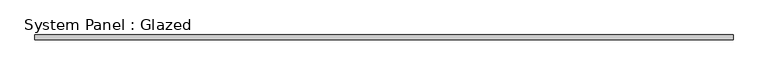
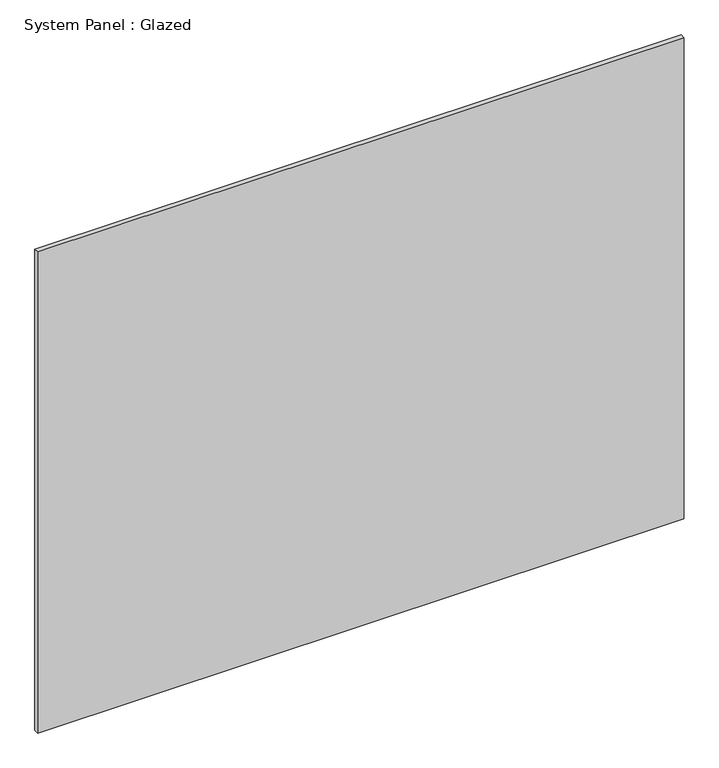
"""IFC4 building model written with IfcOpenShell, lengths in millimetres: plate geometry, System Panel : Glazed."""

from ifc_helpers import new_model, si_unit, origin, origin_with_axes, place, context, project, spatial, polyline, outline, extrude, source, transform, mapped, element, save


def system_panel_glazed_1260faee(model_context):
    return source(origin(), model_context, "Body", "SweptSolid", [
        extrude(outline(polyline([(1747.5, -49.5), (-1747.5, -49.5), (-1747.5, -24.5), (1747.5, -24.5), (1747.5, -49.5)])), origin_with_axes(), (0.0, 0.0, 1.0), 2750.0),
    ])


if __name__ == "__main__":
    model = new_model("IFC4")
    model_context = context("Model", 3, world=origin())
    ifc_project = project(units=[si_unit("LENGTHUNIT", "METRE", prefix="MILLI")], contexts=[model_context])
    site = spatial("IfcSite", under=ifc_project)
    building = spatial("IfcBuilding", under=site)
    placement = place(None, origin())
    system_panel_glazed_shape = system_panel_glazed_1260faee(model_context)
    element("IfcPlate", 1, ObjectType="System Panel : Glazed", at=placement, inside=building, context=model_context, shape_type="MappedRepresentation", body=[
        mapped(system_panel_glazed_shape, transform((0.0, 0.0, 0.0), x_axis=(1.0, 0.0, 0.0), y_axis=(0.0, 1.0, 0.0), z_axis=(0.0, 0.0, 1.0))),
    ])
    save(model, "model.ifc")
